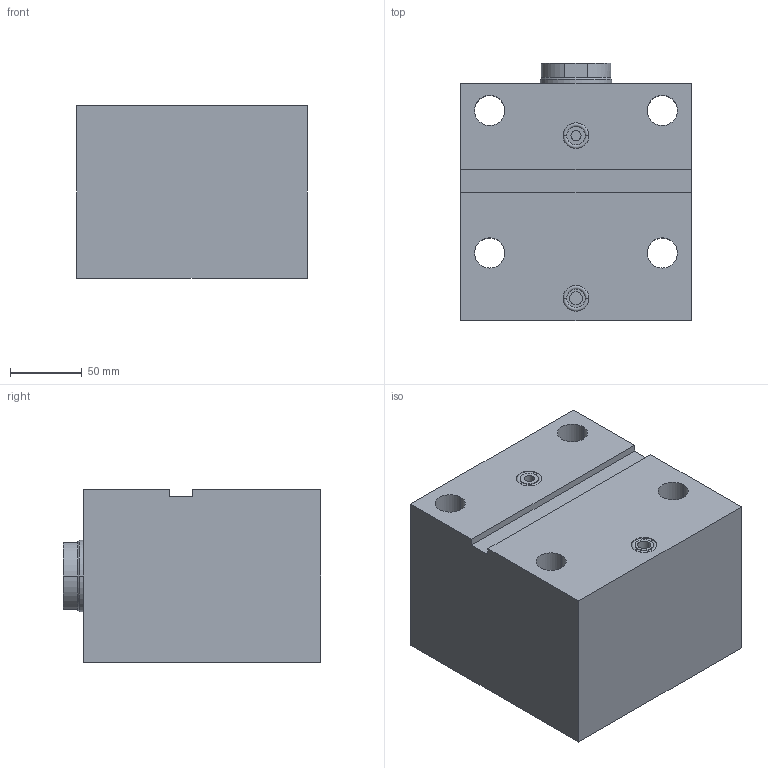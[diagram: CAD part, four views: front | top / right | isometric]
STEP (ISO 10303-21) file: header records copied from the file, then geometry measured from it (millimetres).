
FILE_DESCRIPTION (( 'STEP AP203' ), '1' );
FILE_NAME ('GERMA_Blockzylinder_603-080-080.STEP', '2016-01-25T09:43:52', ( '' ), ( '' ), 'SwSTEP 2.0', 'SolidWorks 2015', '' );
FILE_SCHEMA (( 'CONFIG_CONTROL_DESIGN' ));
Length unit declared in the file: millimetre
Products named in the file (3): GH-600-080_GH-603-080-080; Kolben 60x-080_Kolben DU.80-Hub80-IG; GERMA_Blockzylinder_603-080-080
Assembly tree (2 placements, depth 2):
  GERMA_Blockzylinder_603-080-080
    GH-600-080_GH-603-080-080
    Kolben 60x-080_Kolben DU.80-Hub80-IG
Bounding box: 160 x 179 x 120 mm (x, y, z)
Volume: 2738475.3 mm3; surface area: 244884.5 mm2
Topology: 2 solids, 2 shells, 85 faces, 188 edges, 114 vertices
Faces by surface type: cylinder 41, plane 26, cone 14, torus 4
Entity records: 2638 total; most frequent: DIRECTION 459, CARTESIAN_POINT 386, ORIENTED_EDGE 364, AXIS2_PLACEMENT_3D 187, EDGE_CURVE 182, VERTEX_POINT 114, EDGE_LOOP 106, CIRCLE 97
